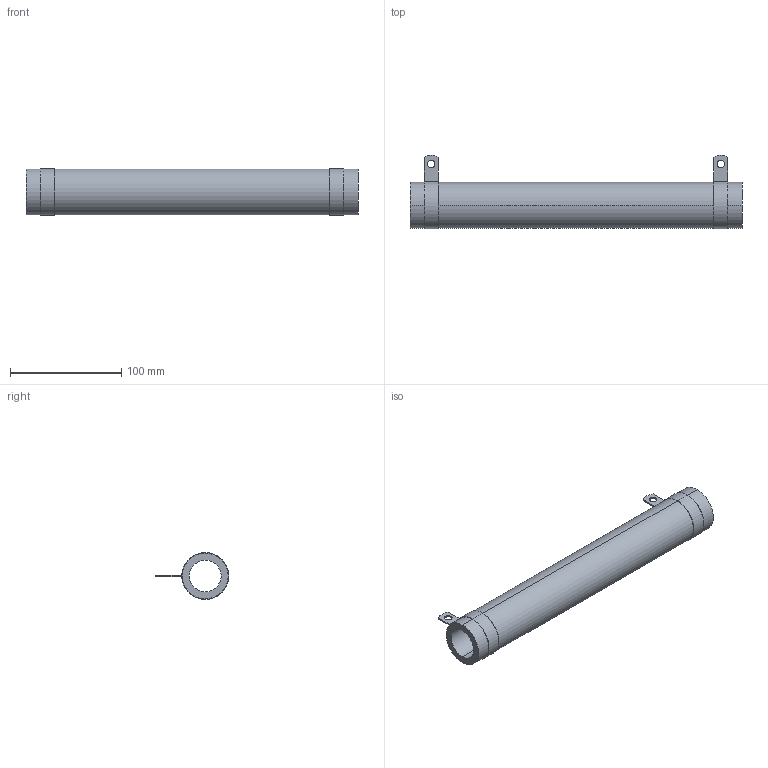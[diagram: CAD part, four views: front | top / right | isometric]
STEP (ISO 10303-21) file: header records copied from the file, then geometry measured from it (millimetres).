
FILE_DESCRIPTION (( 'STEP AP203' ), '1' );
FILE_NAME ('RBEF0550xxxxxKGB00.STEP', '2014-04-04T19:01:14', ( '' ), ( '' ), 'SwSTEP 2.0', 'SolidWorks 2012', '' );
FILE_SCHEMA (( 'CONFIG_CONTROL_DESIGN' ));
Length unit declared in the file: millimetre
Products named in the file (3): DAL013-07_DAL013-149; DAL15-182-XXX_DAL15-182-326-CLOSED; RBEF0550xxxxxKGB00
Assembly tree (3 placements, depth 2):
  RBEF0550xxxxxKGB00
    DAL013-07_DAL013-149
    DAL15-182-XXX_DAL15-182-326-CLOSED  x2
Bounding box: 298.45 x 66.03 x 42.21 mm (x, y, z)
Volume: 210018.6 mm3; surface area: 75980.8 mm2
Topology: 3 solids, 3 shells, 76 faces, 162 edges, 92 vertices
Faces by surface type: plane 46, cylinder 30
Entity records: 1432 total; most frequent: DIRECTION 215, CARTESIAN_POINT 184, ORIENTED_EDGE 174, EDGE_CURVE 87, AXIS2_PLACEMENT_3D 81, VECTOR 53, LINE 53, VERTEX_POINT 50
